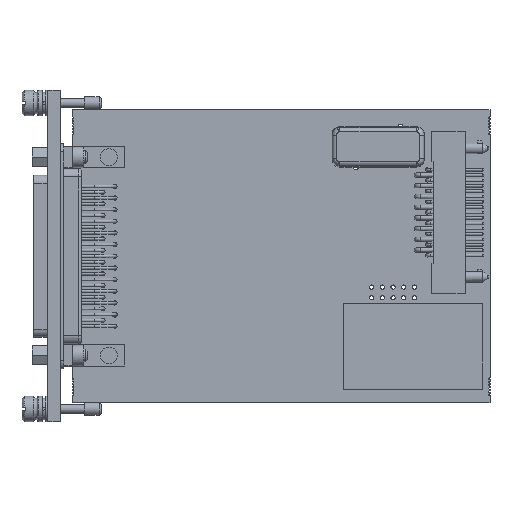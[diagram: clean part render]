
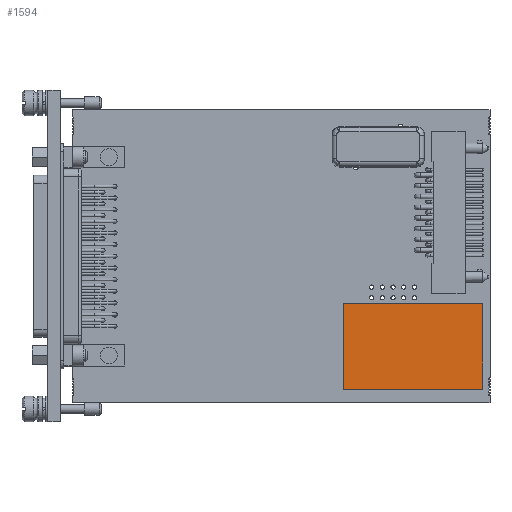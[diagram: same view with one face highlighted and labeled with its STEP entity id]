
A CAD part, top view. The second image highlights one B-rep face of the part: STEP entity #1594.
In plain terms, the highlighted planar face has unit normal (0, 0, 1).
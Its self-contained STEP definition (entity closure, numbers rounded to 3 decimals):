
#1594=ADVANCED_FACE('',(#15063),#15065,.F.);
#15063=FACE_BOUND('',#15064,.T.);
#15064=EDGE_LOOP('',(#25971,#25972,#25973,#25974));
#15065=PLANE('',#15066);
#15066=AXIS2_PLACEMENT_3D('',#15067,#15068,#15069);
#15067=CARTESIAN_POINT('',(97.33,23.54,10.7));
#15068=DIRECTION('',(0.,0.,-1.));
#15069=DIRECTION('',(-1.,0.,0.));
#25971=ORIENTED_EDGE('',*,*,#32372,.T.);
#25972=ORIENTED_EDGE('',*,*,#32378,.T.);
#25973=ORIENTED_EDGE('',*,*,#32376,.T.);
#25974=ORIENTED_EDGE('',*,*,#32374,.T.);
#32372=EDGE_CURVE('',#36085,#36083,#36086,.T.);
#32374=EDGE_CURVE('',#36088,#36085,#36089,.T.);
#32376=EDGE_CURVE('',#36091,#36088,#36092,.T.);
#32378=EDGE_CURVE('',#36083,#36091,#36094,.T.);
#36083=VERTEX_POINT('',#42915);
#36085=VERTEX_POINT('',#42919);
#36086=LINE('',#42920,#42921);
#36088=VERTEX_POINT('',#42926);
#36089=LINE('',#42927,#42928);
#36091=VERTEX_POINT('',#42933);
#36092=LINE('',#42934,#42935);
#36094=LINE('',#42940,#42941);
#42915=CARTESIAN_POINT('',(64.31,23.54,10.7));
#42919=CARTESIAN_POINT('',(97.33,23.54,10.7));
#42920=CARTESIAN_POINT('',(97.33,23.54,10.7));
#42921=VECTOR('',#42922,1.);
#42922=DIRECTION('',(-1.,0.,0.));
#42926=CARTESIAN_POINT('',(97.33,3.22,10.7));
#42927=CARTESIAN_POINT('',(97.33,3.22,10.7));
#42928=VECTOR('',#42929,1.);
#42929=DIRECTION('',(0.,1.,0.));
#42933=CARTESIAN_POINT('',(64.31,3.22,10.7));
#42934=CARTESIAN_POINT('',(64.31,3.22,10.7));
#42935=VECTOR('',#42936,1.);
#42936=DIRECTION('',(1.,0.,0.));
#42940=CARTESIAN_POINT('',(64.31,23.54,10.7));
#42941=VECTOR('',#42942,1.);
#42942=DIRECTION('',(0.,-1.,0.));
